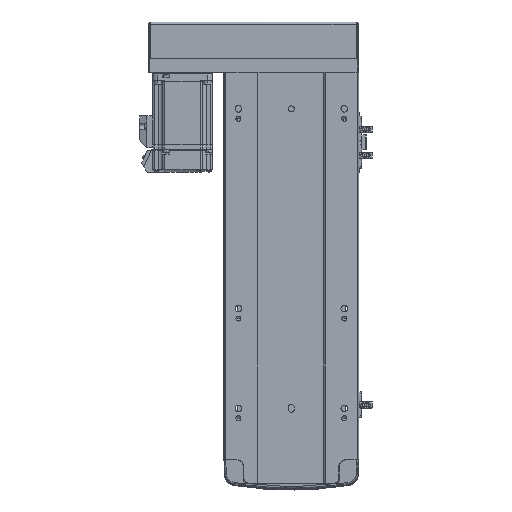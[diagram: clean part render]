
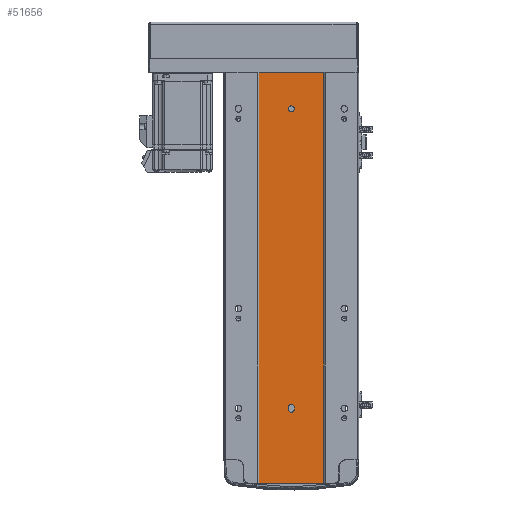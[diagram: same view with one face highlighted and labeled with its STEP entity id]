
A CAD part, top view. The second image highlights one B-rep face of the part: STEP entity #51656.
In plain terms, the highlighted planar face has unit normal (0, 0, 1).
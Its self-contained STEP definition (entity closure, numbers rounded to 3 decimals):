
#827 = CIRCLE ( 'NONE', #10950, 3. ) ;
#2680 = CARTESIAN_POINT ( 'NONE',  ( -32.5, 0., 35.45 ) ) ;
#4183 = DIRECTION ( 'NONE',  ( 0., 0., 1. ) ) ;
#5388 = VERTEX_POINT ( 'NONE', #30578 ) ;
#5543 = VECTOR ( 'NONE', #16552, 1000. ) ;
#5873 = ORIENTED_EDGE ( 'NONE', *, *, #55753, .T. ) ;
#5940 = AXIS2_PLACEMENT_3D ( 'NONE', #8746, #37160, #51082 ) ;
#6209 = LINE ( 'NONE', #32848, #38421 ) ;
#6794 = EDGE_CURVE ( 'NONE', #48892, #7315, #6209, .T. ) ;
#6938 = AXIS2_PLACEMENT_3D ( 'NONE', #31713, #54432, #36429 ) ;
#7315 = VERTEX_POINT ( 'NONE', #23570 ) ;
#8646 = CARTESIAN_POINT ( 'NONE',  ( 32.5, -411.5, 35.45 ) ) ;
#8746 = CARTESIAN_POINT ( 'NONE',  ( 0., -36.5, 35.45 ) ) ;
#9494 = EDGE_CURVE ( 'NONE', #5388, #38569, #827, .T. ) ;
#9743 = AXIS2_PLACEMENT_3D ( 'NONE', #13192, #4183, #27295 ) ;
#10107 = EDGE_CURVE ( 'NONE', #32934, #34403, #13315, .T. ) ;
#10950 = AXIS2_PLACEMENT_3D ( 'NONE', #34229, #53241, #43446 ) ;
#11619 = CARTESIAN_POINT ( 'NONE',  ( 32.5, 0., 35.45 ) ) ;
#13192 = CARTESIAN_POINT ( 'NONE',  ( 0., -335.5, 35.45 ) ) ;
#13315 = CIRCLE ( 'NONE', #5940, 3. ) ;
#14697 = LINE ( 'NONE', #20171, #55722 ) ;
#16552 = DIRECTION ( 'NONE',  ( 1., 0., 0. ) ) ;
#18513 = EDGE_CURVE ( 'NONE', #7315, #24438, #50233, .T. ) ;
#18708 = DIRECTION ( 'NONE',  ( 1., 0., 0. ) ) ;
#19960 = ORIENTED_EDGE ( 'NONE', *, *, #33126, .F. ) ;
#20171 = CARTESIAN_POINT ( 'NONE',  ( -32.5, -411.5, 35.45 ) ) ;
#21254 = FACE_BOUND ( 'NONE', #25808, .T. ) ;
#21854 = LINE ( 'NONE', #8646, #24065 ) ;
#23333 = VERTEX_POINT ( 'NONE', #46986 ) ;
#23570 = CARTESIAN_POINT ( 'NONE',  ( -32.5, 0., 35.45 ) ) ;
#24065 = VECTOR ( 'NONE', #32177, 1000. ) ;
#24438 = VERTEX_POINT ( 'NONE', #11619 ) ;
#25808 = EDGE_LOOP ( 'NONE', ( #19960, #57931, #45687, #27008 ) ) ;
#26097 = CIRCLE ( 'NONE', #9743, 3. ) ;
#27008 = ORIENTED_EDGE ( 'NONE', *, *, #44234, .F. ) ;
#27295 = DIRECTION ( 'NONE',  ( 1., 0., 0. ) ) ;
#27400 = CARTESIAN_POINT ( 'NONE',  ( -3., -335.5, 35.45 ) ) ;
#30160 = EDGE_LOOP ( 'NONE', ( #35305, #44670 ) ) ;
#30578 = CARTESIAN_POINT ( 'NONE',  ( -3., -337.5, 35.45 ) ) ;
#31713 = CARTESIAN_POINT ( 'NONE',  ( -32.5, -411.5, 35.45 ) ) ;
#32177 = DIRECTION ( 'NONE',  ( 0., 1., 0. ) ) ;
#32848 = CARTESIAN_POINT ( 'NONE',  ( -32.5, -411.5, 35.45 ) ) ;
#32934 = VERTEX_POINT ( 'NONE', #57340 ) ;
#33126 = EDGE_CURVE ( 'NONE', #51493, #38144, #26097, .T. ) ;
#33599 = CARTESIAN_POINT ( 'NONE',  ( 3., -335.5, 35.45 ) ) ;
#33829 = AXIS2_PLACEMENT_3D ( 'NONE', #51462, #42036, #18708 ) ;
#34229 = CARTESIAN_POINT ( 'NONE',  ( 0., -337.5, 35.45 ) ) ;
#34403 = VERTEX_POINT ( 'NONE', #57139 ) ;
#34801 = VECTOR ( 'NONE', #49653, 1000. ) ;
#35305 = ORIENTED_EDGE ( 'NONE', *, *, #48181, .F. ) ;
#36429 = DIRECTION ( 'NONE',  ( 1., 0., 0. ) ) ;
#36595 = CARTESIAN_POINT ( 'NONE',  ( 3., -335.5, 35.45 ) ) ;
#37160 = DIRECTION ( 'NONE',  ( 0., 0., 1. ) ) ;
#37330 = ORIENTED_EDGE ( 'NONE', *, *, #18513, .F. ) ;
#38144 = VERTEX_POINT ( 'NONE', #27400 ) ;
#38421 = VECTOR ( 'NONE', #51480, 1000. ) ;
#38533 = ORIENTED_EDGE ( 'NONE', *, *, #6794, .F. ) ;
#38569 = VERTEX_POINT ( 'NONE', #49219 ) ;
#38725 = CIRCLE ( 'NONE', #33829, 3. ) ;
#39324 = VECTOR ( 'NONE', #59918, 1000. ) ;
#39978 = CARTESIAN_POINT ( 'NONE',  ( -3., -335.5, 35.45 ) ) ;
#42036 = DIRECTION ( 'NONE',  ( 0., 0., 1. ) ) ;
#42612 = EDGE_CURVE ( 'NONE', #38569, #51493, #51787, .T. ) ;
#43446 = DIRECTION ( 'NONE',  ( 1., 0., 0. ) ) ;
#43699 = DIRECTION ( 'NONE',  ( 1., 0., 0. ) ) ;
#44234 = EDGE_CURVE ( 'NONE', #38144, #5388, #48731, .T. ) ;
#44670 = ORIENTED_EDGE ( 'NONE', *, *, #10107, .F. ) ;
#45687 = ORIENTED_EDGE ( 'NONE', *, *, #9494, .F. ) ;
#46986 = CARTESIAN_POINT ( 'NONE',  ( 32.5, -411.5, 35.45 ) ) ;
#47445 = ORIENTED_EDGE ( 'NONE', *, *, #56427, .T. ) ;
#48181 = EDGE_CURVE ( 'NONE', #34403, #32934, #38725, .T. ) ;
#48731 = LINE ( 'NONE', #39978, #34801 ) ;
#48892 = VERTEX_POINT ( 'NONE', #55018 ) ;
#49219 = CARTESIAN_POINT ( 'NONE',  ( 3., -337.5, 35.45 ) ) ;
#49653 = DIRECTION ( 'NONE',  ( 0., -1., 0. ) ) ;
#50233 = LINE ( 'NONE', #2680, #5543 ) ;
#51082 = DIRECTION ( 'NONE',  ( 1., 0., 0. ) ) ;
#51462 = CARTESIAN_POINT ( 'NONE',  ( 0., -36.5, 35.45 ) ) ;
#51480 = DIRECTION ( 'NONE',  ( 0., 1., 0. ) ) ;
#51493 = VERTEX_POINT ( 'NONE', #33599 ) ;
#51656 = ADVANCED_FACE ( 'NONE', ( #21254, #60077, #54199 ), #58930, .T. ) ;
#51787 = LINE ( 'NONE', #36595, #39324 ) ;
#53241 = DIRECTION ( 'NONE',  ( 0., 0., 1. ) ) ;
#54199 = FACE_OUTER_BOUND ( 'NONE', #57724, .T. ) ;
#54432 = DIRECTION ( 'NONE',  ( 0., 0., 1. ) ) ;
#55018 = CARTESIAN_POINT ( 'NONE',  ( -32.5, -411.5, 35.45 ) ) ;
#55722 = VECTOR ( 'NONE', #43699, 1000. ) ;
#55753 = EDGE_CURVE ( 'NONE', #23333, #24438, #21854, .T. ) ;
#56427 = EDGE_CURVE ( 'NONE', #48892, #23333, #14697, .T. ) ;
#57139 = CARTESIAN_POINT ( 'NONE',  ( 3., -36.5, 35.45 ) ) ;
#57340 = CARTESIAN_POINT ( 'NONE',  ( -3., -36.5, 35.45 ) ) ;
#57724 = EDGE_LOOP ( 'NONE', ( #37330, #38533, #47445, #5873 ) ) ;
#57931 = ORIENTED_EDGE ( 'NONE', *, *, #42612, .F. ) ;
#58930 = PLANE ( 'NONE',  #6938 ) ;
#59918 = DIRECTION ( 'NONE',  ( 0., 1., 0. ) ) ;
#60077 = FACE_BOUND ( 'NONE', #30160, .T. ) ;
